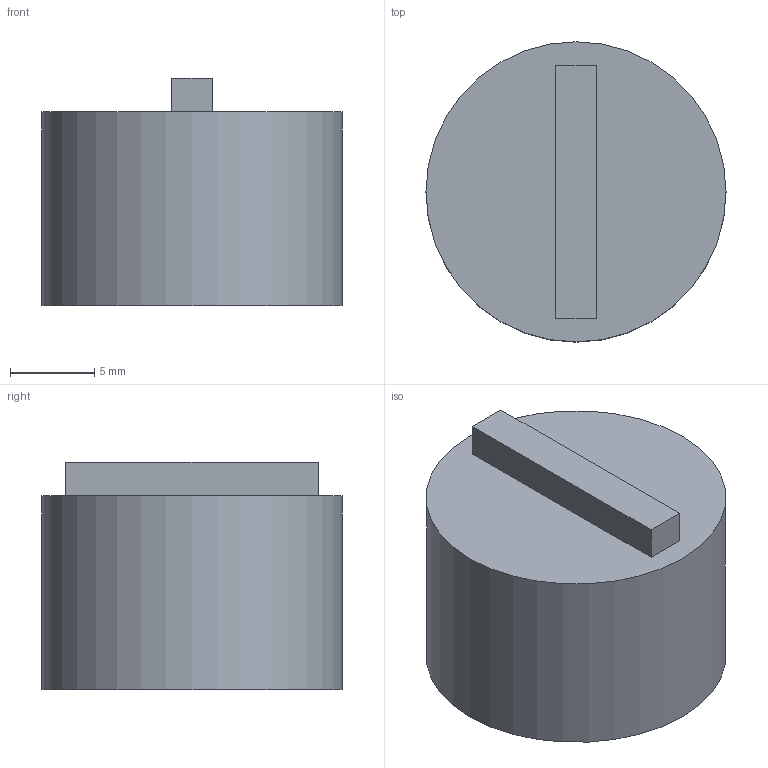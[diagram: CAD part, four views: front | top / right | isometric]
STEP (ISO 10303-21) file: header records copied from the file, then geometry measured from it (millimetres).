
FILE_DESCRIPTION(('Open CASCADE Model'),'2;1');
FILE_NAME('Open CASCADE Shape Model','2026-09-06T14:27:59',('Author'),( 'Open CASCADE'),'Open CASCADE STEP processor 7.9','Open CASCADE 7.9' ,'Unknown');
FILE_SCHEMA(('AUTOMOTIVE_DESIGN { 1 0 10303 214 1 1 1 1 }'));
Length unit declared in the file: millimetre
Products named in the file (1): Open CASCADE STEP translator 7.9 6
Bounding box: 17.8 x 17.8 x 13.5 mm (x, y, z)
Volume: 2473.2 mm3; surface area: 1442.9 mm2
Topology: 1 solids, 1 shells, 13 faces, 24 edges, 16 vertices
Faces by surface type: plane 10, cylinder 3
Full cylindrical faces by diameter (mm): 10.8 x1, 17.8 x1
Entity records: 655 total; most frequent: CARTESIAN_POINT 120, DIRECTION 103, LINE 60, VECTOR 60, ORIENTED_EDGE 48, PCURVE 48, DEFINITIONAL_REPRESENTATION 48, EDGE_CURVE 24
